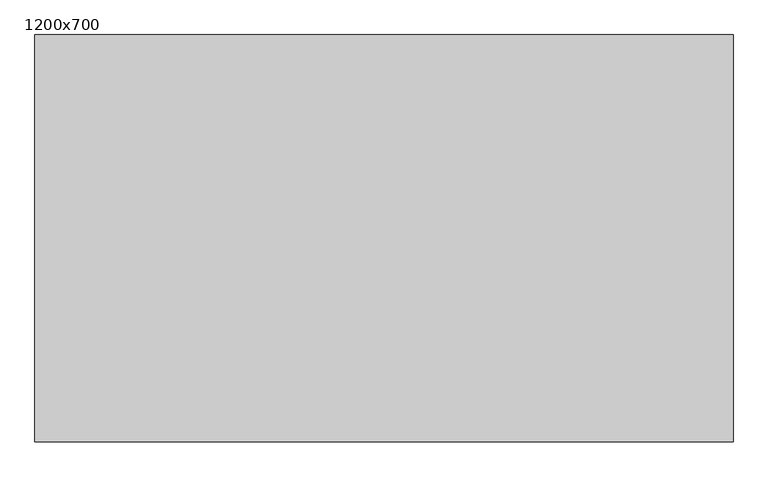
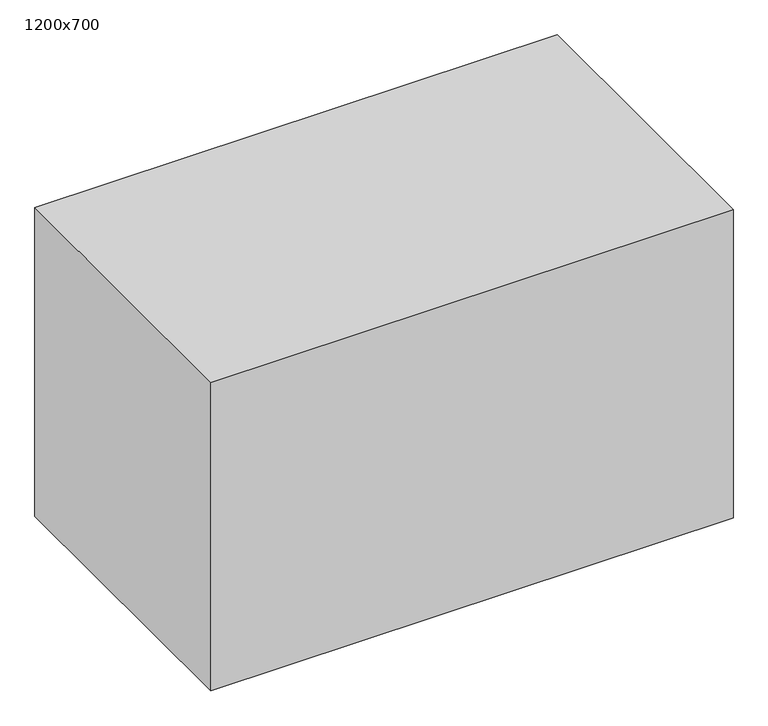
"""IFC4 building model written with IfcOpenShell, lengths in millimetres: furniture geometry, Fu_стол рабочий : 1200x700."""

from ifc_helpers import new_model, si_unit, origin, origin_with_axes, place, context, project, spatial, polyline, outline, extrude, source, transform, mapped, element, save


def furniture_1200x700_5fdb5f68(model_context):
    return source(origin(), model_context, "Body", "SweptSolid", [
        extrude(outline(polyline([(373.401892, -1616.7939624), (-826.598108, -1616.7939624), (-826.598108, -916.7939624), (373.401892, -916.7939624), (373.401892, -1616.7939624)])), origin_with_axes(), (0.0, 0.0, 1.0), 750.0),
    ])


if __name__ == "__main__":
    model = new_model("IFC4")
    model_context = context("Model", 3, world=origin())
    ifc_project = project(units=[si_unit("LENGTHUNIT", "METRE", prefix="MILLI")], contexts=[model_context])
    site = spatial("IfcSite", under=ifc_project)
    building = spatial("IfcBuilding", under=site)
    placement = place(None, origin())
    furniture_1200x700_shape = furniture_1200x700_5fdb5f68(model_context)
    element("IfcFurniture", 1, ObjectType="Fu_стол рабочий : 1200x700", at=placement, inside=building, context=model_context, shape_type="MappedRepresentation", body=[
        mapped(furniture_1200x700_shape, transform((0.0, 0.0, 0.0), x_axis=(1.0, 0.0, 0.0), y_axis=(0.0, 1.0, 0.0), z_axis=(0.0, 0.0, 1.0))),
    ])
    save(model, "model.ifc")
